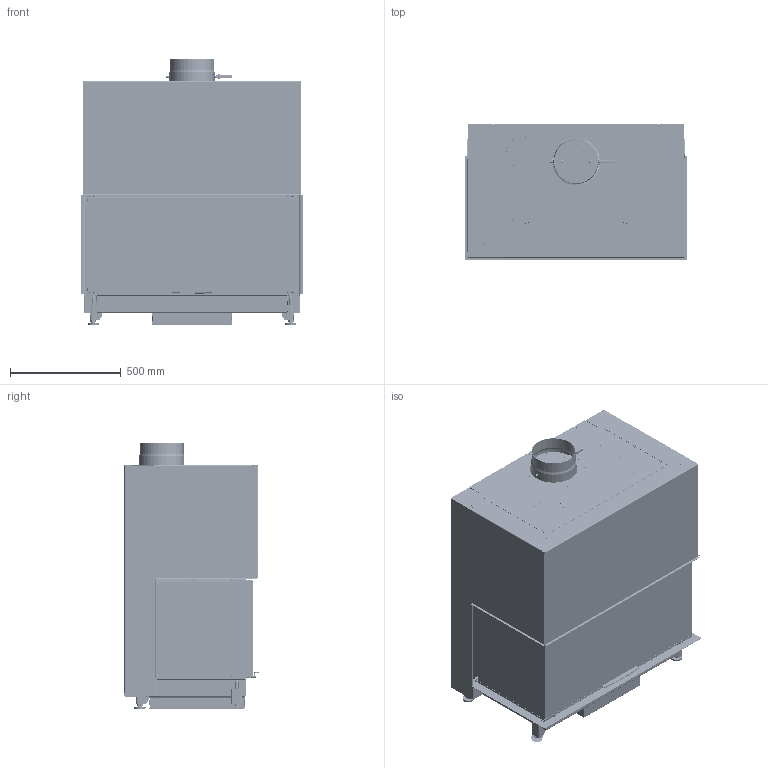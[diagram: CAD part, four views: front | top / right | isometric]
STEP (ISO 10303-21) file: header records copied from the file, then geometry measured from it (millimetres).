
FILE_DESCRIPTION(/* description */ (''),/* implementation_level */ '2;1');
FILE_NAME(/* name */ 'C:\ADSK_DM_WS\CAD_3D\03 Geraete\RIII 45x100x46\Zeichnungen\RIII 45x100x46 mit Mantel Abgang oben CAD Planung defriten 2021-03077 211124.stp',/* time_stamp */ '2021-11-24T08:55:33+01:00',/* author */ ('CPI'),/* organization */ (''),/* preprocessor_version */ 'ST-DEVELOPER v18.1',/* originating_system */ 'Autodesk Inventor 2022',/* authorisation */ '');
FILE_SCHEMA (('AUTOMOTIVE_DESIGN { 1 0 10303 214 3 1 1 }'));
Products named in the file (9): 2021-03077; 2021-03057; 2021-03069; 2021-03066; 2021-03064; 2021-03062; 2021-03071; 2018-00985; 2021-03073
Assembly tree (8 placements, depth 2):
  2021-03077
    2021-03057
    2021-03069
    2021-03066
    2021-03064
    2021-03062
    2021-03071
    2018-00985
    2021-03073
Bounding box: 1000 x 613.5 x 1199 mm (x, y, z)
Volume: 35026745.1 mm3; surface area: 20355666.5 mm2
Topology: 16 solids, 31 shells, 9824 faces, 27218 edges, 17251 vertices
Faces by surface type: plane 5669, cylinder 3681, bspline 286, cone 123, torus 64, sphere 1
Full cylindrical faces by diameter (mm): 3.242 x6, 4.8 x5, 6 x6, 7 x11, 7.9 x2, 8 x8, 9 x2, 9.5 x4, 10 x7, 10.21 x4, 11.192 x2, 12 x4, 16 x10, 18 x4, 20 x4, 30 x4, 163 x1, 194 x1, 198 x1, 200 x1, 204 x1, 333 x1, 339 x1
Entity records: 331137 total; most frequent: CARTESIAN_POINT 69922, ORIENTED_EDGE 54382, DIRECTION 53539, EDGE_CURVE 27248, AXIS2_PLACEMENT_3D 17891, LINE 17757, VECTOR 17757, VERTEX_POINT 17248
